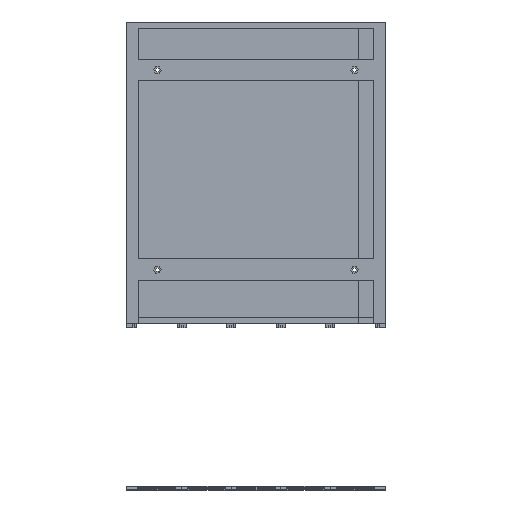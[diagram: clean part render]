
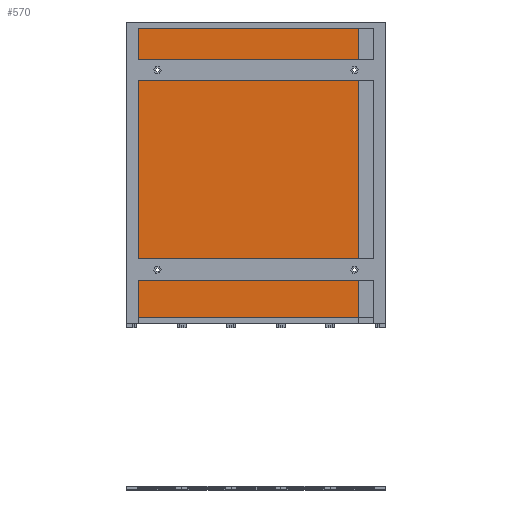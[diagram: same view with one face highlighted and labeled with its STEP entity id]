
A CAD part, top view. The second image highlights one B-rep face of the part: STEP entity #570.
In plain terms, the highlighted planar face has unit normal (0, 0, 1).
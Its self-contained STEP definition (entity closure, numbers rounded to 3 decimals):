
#145=FACE_BOUND('',#1713,.T.);
#146=FACE_BOUND('',#1714,.T.);
#570=ADVANCED_FACE('',(#1109,#145,#146),#8683,.T.);
#1109=FACE_OUTER_BOUND('',#1712,.T.);
#1712=EDGE_LOOP('',(#3950,#3951,#3952,#3953,#3954,#3955,#3956,#3957,#3958,
#3959));
#1713=EDGE_LOOP('',(#3960,#3961));
#1714=EDGE_LOOP('',(#3962,#3963));
#3950=ORIENTED_EDGE('',*,*,#5626,.T.);
#3951=ORIENTED_EDGE('',*,*,#5645,.T.);
#3952=ORIENTED_EDGE('',*,*,#5581,.F.);
#3953=ORIENTED_EDGE('',*,*,#5584,.T.);
#3954=ORIENTED_EDGE('',*,*,#5580,.T.);
#3955=ORIENTED_EDGE('',*,*,#5592,.F.);
#3956=ORIENTED_EDGE('',*,*,#5618,.F.);
#3957=ORIENTED_EDGE('',*,*,#5614,.T.);
#3958=ORIENTED_EDGE('',*,*,#5639,.T.);
#3959=ORIENTED_EDGE('',*,*,#5630,.F.);
#3960=ORIENTED_EDGE('',*,*,#5609,.T.);
#3961=ORIENTED_EDGE('',*,*,#5636,.T.);
#3962=ORIENTED_EDGE('',*,*,#5621,.T.);
#3963=ORIENTED_EDGE('',*,*,#5642,.T.);
#5580=EDGE_CURVE('',#8089,#8078,#7130,.T.);
#5581=EDGE_CURVE('',#8084,#8109,#7131,.T.);
#5584=EDGE_CURVE('',#8084,#8089,#7134,.T.);
#5592=EDGE_CURVE('',#8081,#8078,#7142,.T.);
#5609=EDGE_CURVE('',#8096,#8113,#6079,.T.);
#5614=EDGE_CURVE('',#8101,#8115,#6083,.T.);
#5618=EDGE_CURVE('',#8101,#8081,#7159,.T.);
#5621=EDGE_CURVE('',#8104,#8117,#6087,.T.);
#5626=EDGE_CURVE('',#8108,#8119,#6091,.T.);
#5630=EDGE_CURVE('',#8108,#8102,#7161,.T.);
#5636=EDGE_CURVE('',#8113,#8096,#6097,.T.);
#5639=EDGE_CURVE('',#8115,#8102,#6099,.T.);
#5642=EDGE_CURVE('',#8117,#8104,#6101,.T.);
#5645=EDGE_CURVE('',#8119,#8109,#6103,.T.);
#6079=TRIMMED_CURVE($,#6234,(#15316),(#15317),.T.,.CARTESIAN.);
#6083=TRIMMED_CURVE($,#6238,(#15330),(#15331),.T.,.CARTESIAN.);
#6087=TRIMMED_CURVE($,#6242,(#15348),(#15349),.T.,.CARTESIAN.);
#6091=TRIMMED_CURVE($,#6246,(#15362),(#15363),.T.,.CARTESIAN.);
#6097=TRIMMED_CURVE($,#6252,(#15388),(#15389),.T.,.CARTESIAN.);
#6099=TRIMMED_CURVE($,#6254,(#15396),(#15397),.T.,.CARTESIAN.);
#6101=TRIMMED_CURVE($,#6256,(#15404),(#15405),.T.,.CARTESIAN.);
#6103=TRIMMED_CURVE($,#6258,(#15412),(#15413),.T.,.CARTESIAN.);
#6234=CIRCLE('',#9390,6.);
#6238=CIRCLE('',#9394,6.);
#6242=CIRCLE('',#9398,6.);
#6246=CIRCLE('',#9402,6.);
#6252=CIRCLE('',#9408,6.);
#6254=CIRCLE('',#9410,6.);
#6256=CIRCLE('',#9412,6.);
#6258=CIRCLE('',#9414,6.);
#7130=B_SPLINE_CURVE_WITH_KNOTS('',1,(#15257,#15258),.UNSPECIFIED.,.F.,
 .F.,(2,2),(661.,906.),.UNSPECIFIED.);
#7131=B_SPLINE_CURVE_WITH_KNOTS('',1,(#15259,#15260),.UNSPECIFIED.,.F.,
 .F.,(2,2),(270.,304.817),.UNSPECIFIED.);
#7134=B_SPLINE_CURVE_WITH_KNOTS('',1,(#15265,#15266),.UNSPECIFIED.,.F.,
 .F.,(2,2),(473.5,661.),.UNSPECIFIED.);
#7142=B_SPLINE_CURVE_WITH_KNOTS('',1,(#15281,#15282),.UNSPECIFIED.,.F.,
 .F.,(2,2),(-187.5,0.),.UNSPECIFIED.);
#7159=B_SPLINE_CURVE_WITH_KNOTS('',1,(#15341,#15342),.UNSPECIFIED.,.F.,
 .F.,(2,2),(480.183,515.),.UNSPECIFIED.);
#7161=B_SPLINE_CURVE_WITH_KNOTS('',1,(#15373,#15374),.UNSPECIFIED.,.F.,
 .F.,(2,2),(314.704,470.296),.UNSPECIFIED.);
#8078=VERTEX_POINT('',#15209);
#8081=VERTEX_POINT('',#15212);
#8084=VERTEX_POINT('',#15215);
#8089=VERTEX_POINT('',#15220);
#8096=VERTEX_POINT('',#15227);
#8101=VERTEX_POINT('',#15232);
#8102=VERTEX_POINT('',#15233);
#8104=VERTEX_POINT('',#15235);
#8108=VERTEX_POINT('',#15239);
#8109=VERTEX_POINT('',#15240);
#8113=VERTEX_POINT('',#15244);
#8115=VERTEX_POINT('',#15246);
#8117=VERTEX_POINT('',#15248);
#8119=VERTEX_POINT('',#15250);
#8683=PLANE('',#9372);
#9372=AXIS2_PLACEMENT_3D('',#15161,#10142,$);
#9390=AXIS2_PLACEMENT_3D($,#15315,#10160,#10161);
#9394=AXIS2_PLACEMENT_3D($,#15329,#10168,#10169);
#9398=AXIS2_PLACEMENT_3D($,#15347,#10176,#10177);
#9402=AXIS2_PLACEMENT_3D($,#15361,#10184,#10185);
#9408=AXIS2_PLACEMENT_3D($,#15387,#10196,#10197);
#9410=AXIS2_PLACEMENT_3D($,#15395,#10200,#10201);
#9412=AXIS2_PLACEMENT_3D($,#15403,#10204,#10205);
#9414=AXIS2_PLACEMENT_3D($,#15411,#10208,#10209);
#10142=DIRECTION('',(0.,0.,1.));
#10160=DIRECTION('',(0.,0.,-1.));
#10161=DIRECTION('',(-1.,0.,0.));
#10168=DIRECTION('',(0.,0.,-1.));
#10169=DIRECTION('',(0.567,-0.824,0.));
#10176=DIRECTION('',(0.,0.,-1.));
#10177=DIRECTION('',(-1.,0.,0.));
#10184=DIRECTION('',(0.,0.,-1.));
#10185=DIRECTION('',(0.567,-0.824,0.));
#10196=DIRECTION('',(0.,0.,-1.));
#10197=DIRECTION('',(1.,0.,0.));
#10200=DIRECTION('',(0.,0.,-1.));
#10201=DIRECTION('',(-1.,0.,0.));
#10204=DIRECTION('',(0.,0.,-1.));
#10205=DIRECTION('',(1.,0.,0.));
#10208=DIRECTION('',(0.,0.,-1.));
#10209=DIRECTION('',(-1.,0.,0.));
#15161=CARTESIAN_POINT('',(0.,0.,-12.5));
#15209=CARTESIAN_POINT('',(0.,5.,-12.5));
#15212=CARTESIAN_POINT('',(187.5,5.,-12.5));
#15215=CARTESIAN_POINT('',(187.5,250.,-12.5));
#15220=CARTESIAN_POINT('',(0.,250.,-12.5));
#15227=CARTESIAN_POINT('',(14.9,44.76,-12.5));
#15232=CARTESIAN_POINT('',(187.5,39.817,-12.5));
#15233=CARTESIAN_POINT('',(187.5,49.704,-12.5));
#15235=CARTESIAN_POINT('',(14.9,210.24,-12.5));
#15239=CARTESIAN_POINT('',(187.5,205.296,-12.5));
#15240=CARTESIAN_POINT('',(187.5,215.183,-12.5));
#15244=CARTESIAN_POINT('',(26.9,44.76,-12.5));
#15246=CARTESIAN_POINT('',(178.1,44.76,-12.5));
#15248=CARTESIAN_POINT('',(26.9,210.24,-12.5));
#15250=CARTESIAN_POINT('',(178.1,210.24,-12.5));
#15257=CARTESIAN_POINT('',(0.,250.,-12.5));
#15258=CARTESIAN_POINT('',(0.,5.,-12.5));
#15259=CARTESIAN_POINT('',(187.5,250.,-12.5));
#15260=CARTESIAN_POINT('',(187.5,215.183,-12.5));
#15265=CARTESIAN_POINT('',(187.5,250.,-12.5));
#15266=CARTESIAN_POINT('',(0.,250.,-12.5));
#15281=CARTESIAN_POINT('',(187.5,5.,-12.5));
#15282=CARTESIAN_POINT('',(0.,5.,-12.5));
#15315=CARTESIAN_POINT('',(20.9,44.76,-12.5));
#15316=CARTESIAN_POINT('',(14.9,44.76,-12.5));
#15317=CARTESIAN_POINT('',(26.9,44.76,-12.5));
#15329=CARTESIAN_POINT('',(184.1,44.76,-12.5));
#15330=CARTESIAN_POINT('',(187.5,39.817,-12.5));
#15331=CARTESIAN_POINT('',(178.1,44.76,-12.5));
#15341=CARTESIAN_POINT('',(187.5,39.817,-12.5));
#15342=CARTESIAN_POINT('',(187.5,5.,-12.5));
#15347=CARTESIAN_POINT('',(20.9,210.24,-12.5));
#15348=CARTESIAN_POINT('',(14.9,210.24,-12.5));
#15349=CARTESIAN_POINT('',(26.9,210.24,-12.5));
#15361=CARTESIAN_POINT('',(184.1,210.24,-12.5));
#15362=CARTESIAN_POINT('',(187.5,205.296,-12.5));
#15363=CARTESIAN_POINT('',(178.1,210.24,-12.5));
#15373=CARTESIAN_POINT('',(187.5,205.296,-12.5));
#15374=CARTESIAN_POINT('',(187.5,49.704,-12.5));
#15387=CARTESIAN_POINT('',(20.9,44.76,-12.5));
#15388=CARTESIAN_POINT('',(26.9,44.76,-12.5));
#15389=CARTESIAN_POINT('',(14.9,44.76,-12.5));
#15395=CARTESIAN_POINT('',(184.1,44.76,-12.5));
#15396=CARTESIAN_POINT('',(178.1,44.76,-12.5));
#15397=CARTESIAN_POINT('',(187.5,49.704,-12.5));
#15403=CARTESIAN_POINT('',(20.9,210.24,-12.5));
#15404=CARTESIAN_POINT('',(26.9,210.24,-12.5));
#15405=CARTESIAN_POINT('',(14.9,210.24,-12.5));
#15411=CARTESIAN_POINT('',(184.1,210.24,-12.5));
#15412=CARTESIAN_POINT('',(178.1,210.24,-12.5));
#15413=CARTESIAN_POINT('',(187.5,215.183,-12.5));
